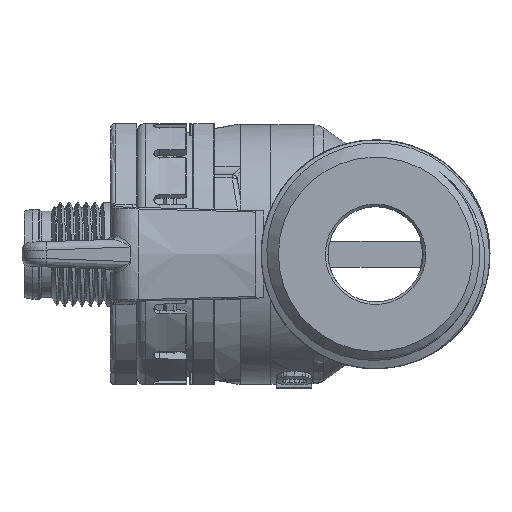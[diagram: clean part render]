
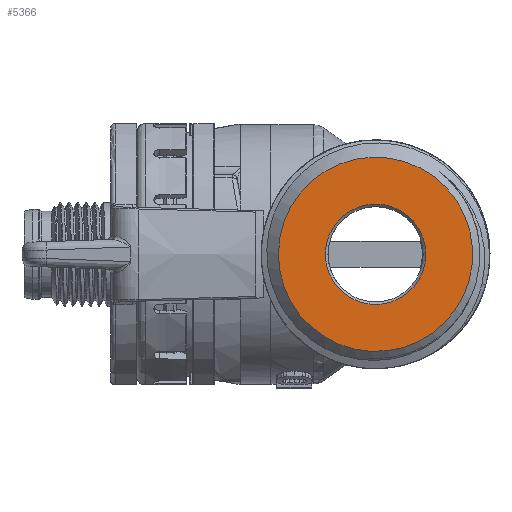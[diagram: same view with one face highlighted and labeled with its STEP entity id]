
A CAD part, left-side view. The second image highlights one B-rep face of the part: STEP entity #5366.
In plain terms, the highlighted planar face has unit normal (-1, 0, 0).
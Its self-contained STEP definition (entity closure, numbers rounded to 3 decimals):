
#5366=ADVANCED_FACE('',(#9627,#9628),#6317,.F.);
#6317=PLANE('',#21018);
#9627=FACE_BOUND('',#9901,.T.);
#9628=FACE_BOUND('',#9902,.T.);
#9901=EDGE_LOOP('',(#11303));
#9902=EDGE_LOOP('',(#11304));
#11303=ORIENTED_EDGE('',*,*,#17979,.T.);
#11304=ORIENTED_EDGE('',*,*,#17980,.T.);
#16265=VERTEX_POINT('',#30942);
#16266=VERTEX_POINT('',#30944);
#17979=EDGE_CURVE('',#16265,#16265,#20357,.T.);
#17980=EDGE_CURVE('',#16266,#16266,#20358,.T.);
#20357=CIRCLE('',#21016,5.8);
#20358=CIRCLE('',#21017,11.22);
#21016=AXIS2_PLACEMENT_3D('',#30941,#22828,#22829);
#21017=AXIS2_PLACEMENT_3D('',#30943,#22830,#22831);
#21018=AXIS2_PLACEMENT_3D('',#30945,#22832,#22833);
#22828=DIRECTION('',(1.,0.,0.));
#22829=DIRECTION('',(0.,1.,0.));
#22830=DIRECTION('',(-1.,0.,0.));
#22831=DIRECTION('',(0.,1.,0.));
#22832=DIRECTION('',(1.,0.,0.));
#22833=DIRECTION('',(0.,-1.,0.));
#30941=CARTESIAN_POINT('',(-43.,-18.,0.));
#30942=CARTESIAN_POINT('',(-43.,-12.2,0.));
#30943=CARTESIAN_POINT('',(-43.,-18.,0.));
#30944=CARTESIAN_POINT('',(-43.,-6.779,0.));
#30945=CARTESIAN_POINT('',(-43.,-3.5,0.));
